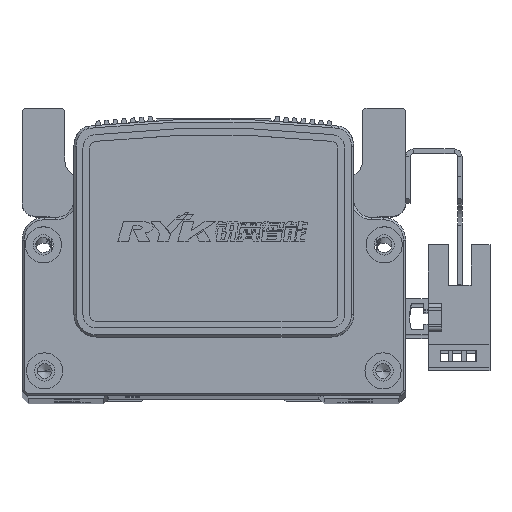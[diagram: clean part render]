
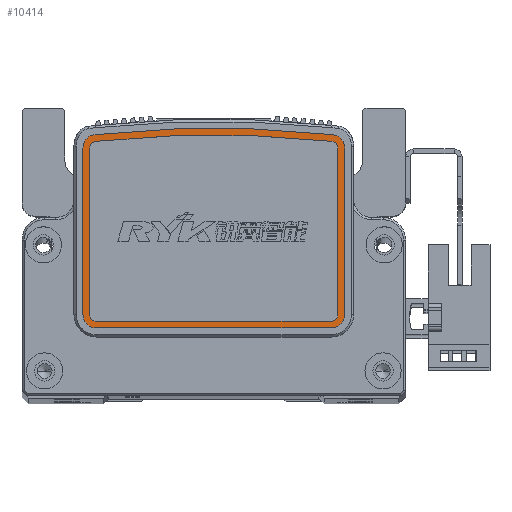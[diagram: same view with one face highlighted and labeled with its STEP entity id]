
A CAD part, top view. The second image highlights one B-rep face of the part: STEP entity #10414.
In plain terms, the highlighted planar face has unit normal (0, 0, 1) as drawn and (1, 0, 0) by its records, which use the part's own axes.
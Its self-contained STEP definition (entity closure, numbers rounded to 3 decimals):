
#8 = VERTEX_POINT ( 'NONE', #57711 ) ;
#10 = VERTEX_POINT ( 'NONE', #57724 ) ;
#14 = VERTEX_POINT ( 'NONE', #57736 ) ;
#34 = VERTEX_POINT ( 'NONE', #57727 ) ;
#42 = VERTEX_POINT ( 'NONE', #57704 ) ;
#43 = VERTEX_POINT ( 'NONE', #57739 ) ;
#49 = VERTEX_POINT ( 'NONE', #57694 ) ;
#51 = VERTEX_POINT ( 'NONE', #57699 ) ;
#62 = VERTEX_POINT ( 'NONE', #57766 ) ;
#63 = VERTEX_POINT ( 'NONE', #57781 ) ;
#1216 = VERTEX_POINT ( 'NONE', #59448 ) ;
#1569 = AXIS2_PLACEMENT_3D ( 'NONE', #4828, #4825, #4812 ) ;
#1582 = AXIS2_PLACEMENT_3D ( 'NONE', #4598, #4625, #4626 ) ;
#1590 = AXIS2_PLACEMENT_3D ( 'NONE', #4368, #4343, #4349 ) ;
#1605 = AXIS2_PLACEMENT_3D ( 'NONE', #4542, #4537, #4522 ) ;
#1609 = AXIS2_PLACEMENT_3D ( 'NONE', #4363, #4335, #4342 ) ;
#1616 = AXIS2_PLACEMENT_3D ( 'NONE', #4313, #4300, #4314 ) ;
#1634 = AXIS2_PLACEMENT_3D ( 'NONE', #4068, #4090, #4130 ) ;
#1643 = AXIS2_PLACEMENT_3D ( 'NONE', #3928, #3948, #3915 ) ;
#1662 = AXIS2_PLACEMENT_3D ( 'NONE', #4834, #4833, #4848 ) ;
#1683 = AXIS2_PLACEMENT_3D ( 'NONE', #34684, #34693, #34614 ) ;
#2497 = AXIS2_PLACEMENT_3D ( 'NONE', #5821, #5834, #5856 ) ;
#3915 = DIRECTION ( 'NONE',  ( 0., 0., -1. ) ) ;
#3921 = CARTESIAN_POINT ( 'NONE',  ( 9., 19.871, 29. ) ) ;
#3926 = DIRECTION ( 'NONE',  ( 0., -1., 0. ) ) ;
#3928 = CARTESIAN_POINT ( 'NONE',  ( 9., -222.049, 0. ) ) ;
#3938 = DIRECTION ( 'NONE',  ( 0., 1., 0. ) ) ;
#3942 = CARTESIAN_POINT ( 'NONE',  ( 9., -17., -29. ) ) ;
#3948 = DIRECTION ( 'NONE',  ( 1., 0., 0. ) ) ;
#4068 = CARTESIAN_POINT ( 'NONE',  ( 9., 19.871, 26. ) ) ;
#4090 = DIRECTION ( 'NONE',  ( 1., 0., 0. ) ) ;
#4130 = DIRECTION ( 'NONE',  ( 0., 0., 1. ) ) ;
#4299 = CARTESIAN_POINT ( 'NONE',  ( 9., -20., 26. ) ) ;
#4300 = DIRECTION ( 'NONE',  ( 1., 0., 0. ) ) ;
#4313 = CARTESIAN_POINT ( 'NONE',  ( 9., 19.871, 26. ) ) ;
#4314 = DIRECTION ( 'NONE',  ( 0., 0., 1. ) ) ;
#4335 = DIRECTION ( 'NONE',  ( 1., 0., 0. ) ) ;
#4342 = DIRECTION ( 'NONE',  ( 0., 0., 1. ) ) ;
#4343 = DIRECTION ( 'NONE',  ( 1., 0., 0. ) ) ;
#4349 = DIRECTION ( 'NONE',  ( 0., 0., 1. ) ) ;
#4363 = CARTESIAN_POINT ( 'NONE',  ( 9., -17., -26. ) ) ;
#4365 = DIRECTION ( 'NONE',  ( 0., 0., -1. ) ) ;
#4368 = CARTESIAN_POINT ( 'NONE',  ( 9., -17., 26. ) ) ;
#4372 = CARTESIAN_POINT ( 'NONE',  ( 9., -18.5, 26. ) ) ;
#4375 = CARTESIAN_POINT ( 'NONE',  ( 9., 19.871, -27.5 ) ) ;
#4391 = DIRECTION ( 'NONE',  ( 0., 1., 0. ) ) ;
#4399 = DIRECTION ( 'NONE',  ( 0., 0., -1. ) ) ;
#4508 = DIRECTION ( 'NONE',  ( 0., -1., 0. ) ) ;
#4519 = CARTESIAN_POINT ( 'NONE',  ( 9., 19.871, 27.5 ) ) ;
#4522 = DIRECTION ( 'NONE',  ( 0., 0., 1. ) ) ;
#4537 = DIRECTION ( 'NONE',  ( 1., 0., 0. ) ) ;
#4542 = CARTESIAN_POINT ( 'NONE',  ( 9., -222.049, 0. ) ) ;
#4598 = CARTESIAN_POINT ( 'NONE',  ( 9., 19.871, -26. ) ) ;
#4625 = DIRECTION ( 'NONE',  ( 1., 0., 0. ) ) ;
#4626 = DIRECTION ( 'NONE',  ( 0., 0., 1. ) ) ;
#4812 = DIRECTION ( 'NONE',  ( 0., 0., -1. ) ) ;
#4825 = DIRECTION ( 'NONE',  ( 1., 0., 0. ) ) ;
#4828 = CARTESIAN_POINT ( 'NONE',  ( 9., 19.871, -26. ) ) ;
#4833 = DIRECTION ( 'NONE',  ( 1., 0., 0. ) ) ;
#4834 = CARTESIAN_POINT ( 'NONE',  ( 9., -17., -26. ) ) ;
#4848 = DIRECTION ( 'NONE',  ( 0., 0., -1. ) ) ;
#5807 = PLANE ( 'NONE',  #2497 ) ;
#5821 = CARTESIAN_POINT ( 'NONE',  ( 9., 19.871, 26. ) ) ;
#5834 = DIRECTION ( 'NONE',  ( 1., 0., 0. ) ) ;
#5856 = DIRECTION ( 'NONE',  ( 0., 0., -1. ) ) ;
#7623 = FACE_BOUND ( 'NONE', #62833, .T. ) ;
#7803 = FACE_OUTER_BOUND ( 'NONE', #62843, .T. ) ;
#10414 = ADVANCED_FACE ( 'NONE', ( #7623, #7803 ), #5807, .T. ) ;
#11383 = CIRCLE ( 'NONE', #1616, 1.5 ) ;
#11417 = CIRCLE ( 'NONE', #1590, 1.5 ) ;
#11431 = VECTOR ( 'NONE', #4391, 1000. ) ;
#11445 = LINE ( 'NONE', #4375, #11431 ) ;
#11456 = VECTOR ( 'NONE', #4365, 1000. ) ;
#11466 = LINE ( 'NONE', #4372, #11456 ) ;
#11483 = CIRCLE ( 'NONE', #1609, 1.5 ) ;
#11505 = VECTOR ( 'NONE', #4508, 1000. ) ;
#11506 = CIRCLE ( 'NONE', #1605, 244.813 ) ;
#11521 = CIRCLE ( 'NONE', #1582, 1.5 ) ;
#11542 = LINE ( 'NONE', #4519, #11505 ) ;
#11630 = CIRCLE ( 'NONE', #1662, 3. ) ;
#11634 = CIRCLE ( 'NONE', #1569, 3. ) ;
#11659 = CIRCLE ( 'NONE', #1643, 246.313 ) ;
#11672 = LINE ( 'NONE', #3942, #11673 ) ;
#11673 = VECTOR ( 'NONE', #3938, 1000. ) ;
#11685 = LINE ( 'NONE', #3921, #11709 ) ;
#11709 = VECTOR ( 'NONE', #3926, 1000. ) ;
#11710 = LINE ( 'NONE', #4299, #11730 ) ;
#11729 = CIRCLE ( 'NONE', #1683, 3. ) ;
#11730 = VECTOR ( 'NONE', #4399, 1000. ) ;
#11738 = CIRCLE ( 'NONE', #1634, 3. ) ;
#33433 = ORIENTED_EDGE ( 'NONE', *, *, #38845, .F. ) ;
#33458 = ORIENTED_EDGE ( 'NONE', *, *, #39057, .T. ) ;
#33462 = ORIENTED_EDGE ( 'NONE', *, *, #38858, .F. ) ;
#33463 = ORIENTED_EDGE ( 'NONE', *, *, #38924, .F. ) ;
#33489 = ORIENTED_EDGE ( 'NONE', *, *, #39034, .T. ) ;
#33491 = ORIENTED_EDGE ( 'NONE', *, *, #38868, .F. ) ;
#33512 = ORIENTED_EDGE ( 'NONE', *, *, #39022, .T. ) ;
#33513 = ORIENTED_EDGE ( 'NONE', *, *, #39070, .T. ) ;
#33514 = ORIENTED_EDGE ( 'NONE', *, *, #38879, .F. ) ;
#33520 = ORIENTED_EDGE ( 'NONE', *, *, #38869, .F. ) ;
#33521 = ORIENTED_EDGE ( 'NONE', *, *, #38919, .F. ) ;
#33526 = ORIENTED_EDGE ( 'NONE', *, *, #39055, .T. ) ;
#33531 = ORIENTED_EDGE ( 'NONE', *, *, #39071, .T. ) ;
#33533 = ORIENTED_EDGE ( 'NONE', *, *, #39072, .T. ) ;
#33535 = ORIENTED_EDGE ( 'NONE', *, *, #38956, .F. ) ;
#33537 = ORIENTED_EDGE ( 'NONE', *, *, #39091, .T. ) ;
#34614 = DIRECTION ( 'NONE',  ( 0., 0., -1. ) ) ;
#34684 = CARTESIAN_POINT ( 'NONE',  ( 9., -17., 26. ) ) ;
#34693 = DIRECTION ( 'NONE',  ( 1., 0., 0. ) ) ;
#35916 = CARTESIAN_POINT ( 'NONE',  ( 9., 19.871, -29. ) ) ;
#35925 = CARTESIAN_POINT ( 'NONE',  ( 9., 22.854, -26.321 ) ) ;
#35938 = CARTESIAN_POINT ( 'NONE',  ( 9., 22.854, 26.321 ) ) ;
#35945 = CARTESIAN_POINT ( 'NONE',  ( 9., -17., -29. ) ) ;
#35951 = CARTESIAN_POINT ( 'NONE',  ( 9., 19.871, 29. ) ) ;
#38845 = EDGE_CURVE ( 'NONE', #1216, #51, #11383, .T. ) ;
#38858 = EDGE_CURVE ( 'NONE', #49, #14, #11417, .T. ) ;
#38868 = EDGE_CURVE ( 'NONE', #14, #8, #11466, .T. ) ;
#38869 = EDGE_CURVE ( 'NONE', #8, #34, #11483, .T. ) ;
#38879 = EDGE_CURVE ( 'NONE', #34, #10, #11445, .T. ) ;
#38919 = EDGE_CURVE ( 'NONE', #51, #49, #11542, .T. ) ;
#38924 = EDGE_CURVE ( 'NONE', #43, #1216, #11506, .T. ) ;
#38956 = EDGE_CURVE ( 'NONE', #10, #43, #11521, .T. ) ;
#39022 = EDGE_CURVE ( 'NONE', #41013, #41085, #11634, .T. ) ;
#39034 = EDGE_CURVE ( 'NONE', #42, #41082, #11630, .T. ) ;
#39055 = EDGE_CURVE ( 'NONE', #41082, #41013, #11672, .T. ) ;
#39057 = EDGE_CURVE ( 'NONE', #41085, #41000, #11659, .T. ) ;
#39070 = EDGE_CURVE ( 'NONE', #41000, #41067, #11738, .T. ) ;
#39071 = EDGE_CURVE ( 'NONE', #41067, #63, #11685, .T. ) ;
#39072 = EDGE_CURVE ( 'NONE', #62, #42, #11710, .T. ) ;
#39091 = EDGE_CURVE ( 'NONE', #63, #62, #11729, .T. ) ;
#41000 = VERTEX_POINT ( 'NONE', #35938 ) ;
#41013 = VERTEX_POINT ( 'NONE', #35916 ) ;
#41067 = VERTEX_POINT ( 'NONE', #35951 ) ;
#41082 = VERTEX_POINT ( 'NONE', #35945 ) ;
#41085 = VERTEX_POINT ( 'NONE', #35925 ) ;
#57694 = CARTESIAN_POINT ( 'NONE',  ( 9., -17., 27.5 ) ) ;
#57699 = CARTESIAN_POINT ( 'NONE',  ( 9., 19.871, 27.5 ) ) ;
#57704 = CARTESIAN_POINT ( 'NONE',  ( 9., -20., -26. ) ) ;
#57711 = CARTESIAN_POINT ( 'NONE',  ( 9., -18.5, -26. ) ) ;
#57724 = CARTESIAN_POINT ( 'NONE',  ( 9., 19.871, -27.5 ) ) ;
#57727 = CARTESIAN_POINT ( 'NONE',  ( 9., -17., -27.5 ) ) ;
#57736 = CARTESIAN_POINT ( 'NONE',  ( 9., -18.5, 26. ) ) ;
#57739 = CARTESIAN_POINT ( 'NONE',  ( 9., 21.363, -26.16 ) ) ;
#57766 = CARTESIAN_POINT ( 'NONE',  ( 9., -20., 26. ) ) ;
#57781 = CARTESIAN_POINT ( 'NONE',  ( 9., -17., 29. ) ) ;
#59448 = CARTESIAN_POINT ( 'NONE',  ( 9., 21.363, 26.16 ) ) ;
#62833 = EDGE_LOOP ( 'NONE', ( #33463, #33535, #33514, #33520, #33491, #33462, #33521, #33433 ) ) ;
#62843 = EDGE_LOOP ( 'NONE', ( #33513, #33531, #33537, #33533, #33489, #33526, #33512, #33458 ) ) ;
